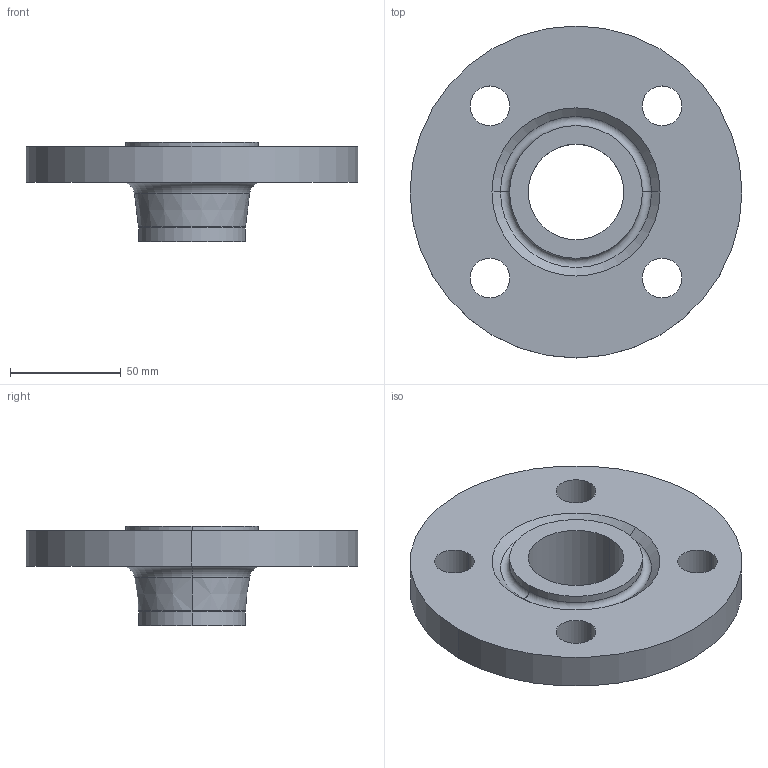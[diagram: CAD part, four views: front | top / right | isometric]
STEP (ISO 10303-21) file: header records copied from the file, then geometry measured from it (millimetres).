
FILE_DESCRIPTION (( 'STEP AP214' ), '1' );
FILE_NAME ('PN40 DN40 Type 11 - Type H Face.STEP', '2018-12-30T02:10:42', ( '' ), ( '' ), 'SwSTEP 2.0', 'SolidWorks 2019', '' );
FILE_SCHEMA (( 'AUTOMOTIVE_DESIGN' ));
Length unit declared in the file: millimetre
Products named in the file (1): PN40 DN40 Type 11 - Type H Face
Bounding box: 150 x 150 x 45 mm (x, y, z)
Volume: 256551.6 mm3; surface area: 52463.5 mm2
Topology: 1 solids, 1 shells, 30 faces, 68 edges, 42 vertices
Faces by surface type: cylinder 16, torus 6, cone 4, plane 4
Entity records: 914 total; most frequent: DIRECTION 178, CARTESIAN_POINT 141, ORIENTED_EDGE 136, AXIS2_PLACEMENT_3D 79, EDGE_CURVE 68, CIRCLE 48, EDGE_LOOP 42, VERTEX_POINT 42
